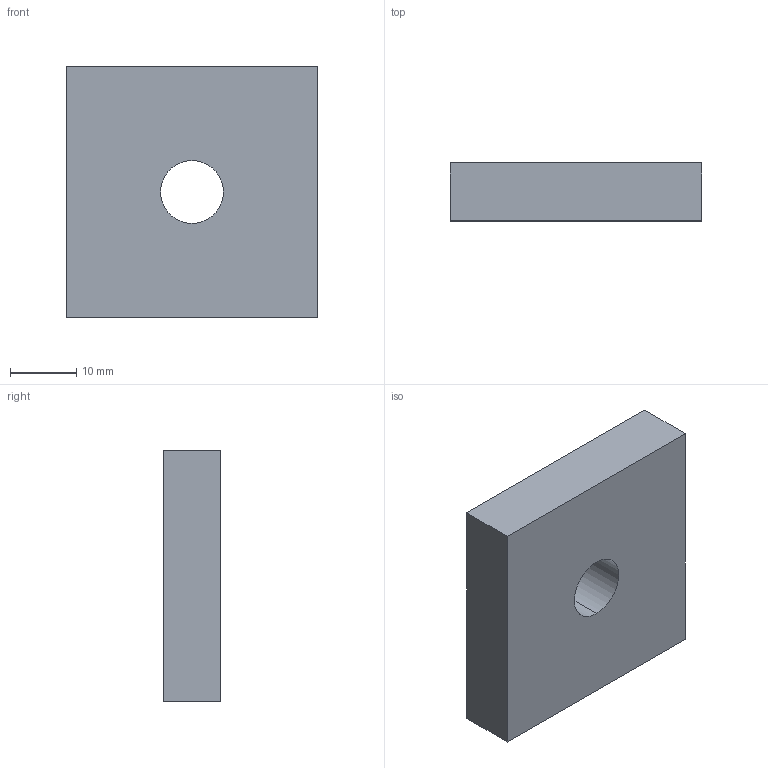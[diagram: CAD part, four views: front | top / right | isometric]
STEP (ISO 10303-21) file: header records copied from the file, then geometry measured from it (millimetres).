
FILE_DESCRIPTION (( 'STEP AP214' ), '1' );
FILE_NAME ('Piston_375.STEP', '2015-04-16T23:58:28', ( '' ), ( '' ), 'SwSTEP 2.0', 'SolidWorks 2012', '' );
FILE_SCHEMA (( 'AUTOMOTIVE_DESIGN' ));
Length unit declared in the file: inch
Products named in the file (1): Piston_375
Bounding box: 38.1 x 8.76 x 38.1 mm (x, y, z)
Volume: 12096 mm3; surface area: 4358.4 mm2
Topology: 1 solids, 1 shells, 8 faces, 18 edges, 12 vertices
Faces by surface type: plane 6, cylinder 2
Entity records: 270 total; most frequent: DIRECTION 40, CARTESIAN_POINT 39, ORIENTED_EDGE 36, EDGE_CURVE 18, LINE 14, VECTOR 14, AXIS2_PLACEMENT_3D 13, VERTEX_POINT 12
